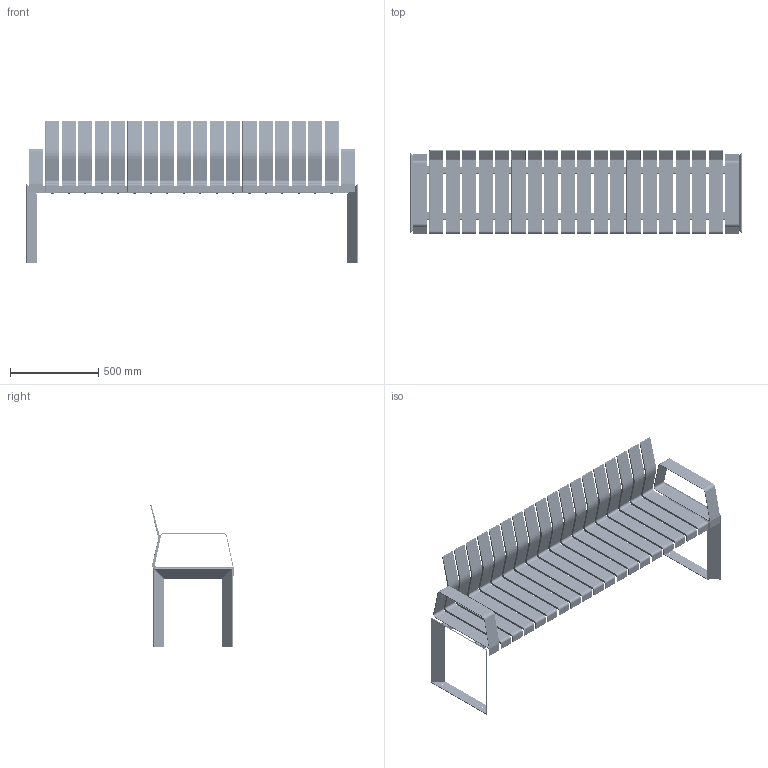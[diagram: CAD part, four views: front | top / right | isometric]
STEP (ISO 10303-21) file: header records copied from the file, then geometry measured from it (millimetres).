
FILE_DESCRIPTION(('STEP AP203'),'1');
FILE_NAME('UT80PL2051AXX + FIANCHI.stp','2025-11-11T14:58:36',(' '),(' '),'Spatial InterOp 3D',' ',' ');
FILE_SCHEMA(('CONFIG_CONTROL_DESIGN'));
Length unit declared in the file: millimetre
Products named in the file (1): UT80PL2051AXX + FIANCHI
Bounding box: 1880.16 x 472.09 x 809.28 mm (x, y, z)
Surface area: 4817973.9 mm2 (no closed solid volume)
Topology: 0 solids, 382 shells, 5156 faces, 21563 edges, 16021 vertices
Faces by surface type: cylinder 2160, plane 1975, torus 674, bspline 292, extrusion 41, cone 14
Full cylindrical faces by diameter (mm): 6.8 x8, 8 x4, 10 x4, 13 x8, 17.8 x44, 25 x4
Entity records: 256070 total; most frequent: CARTESIAN_POINT 86709, DIRECTION 34566, ORIENTED_EDGE 30501, EDGE_CURVE 21385, VERTEX_POINT 16005, VECTOR 12310, LINE 12269, AXIS2_PLACEMENT_3D 11128
